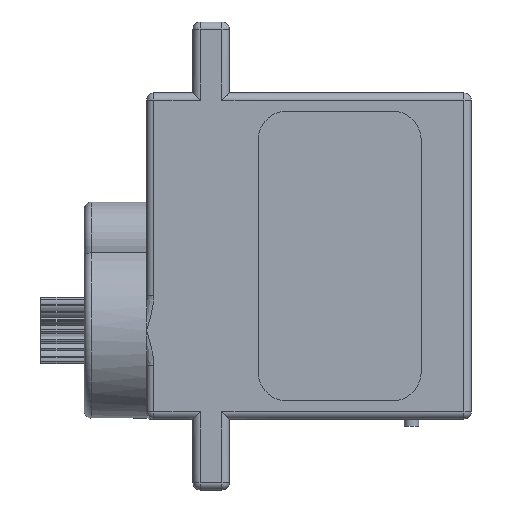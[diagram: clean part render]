
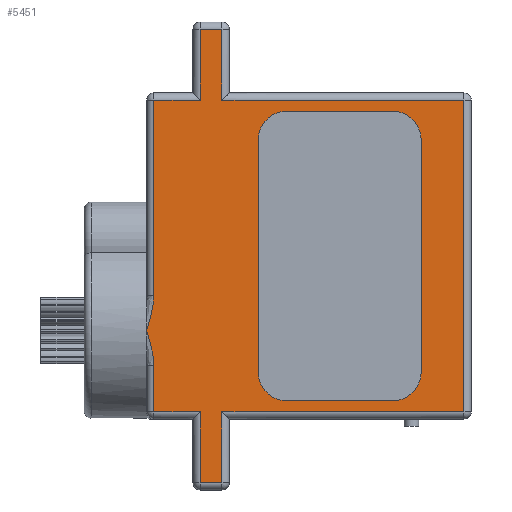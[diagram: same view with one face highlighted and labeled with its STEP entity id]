
A CAD part, left-side view. The second image highlights one B-rep face of the part: STEP entity #5451.
In plain terms, the highlighted planar face has unit normal (-1, 0, 0).
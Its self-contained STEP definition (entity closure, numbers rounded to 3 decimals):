
#135 = ORIENTED_EDGE ( 'NONE', *, *, #8714, .T. ) ;
#139 = CARTESIAN_POINT ( 'NONE',  ( -6.05, 7.5, 11.25 ) ) ;
#184 = DIRECTION ( 'NONE',  ( 0., 0., 1. ) ) ;
#282 = DIRECTION ( 'NONE',  ( 0., 0., -1. ) ) ;
#319 = ORIENTED_EDGE ( 'NONE', *, *, #1917, .T. ) ;
#403 = LINE ( 'NONE', #3398, #2750 ) ;
#616 = LINE ( 'NONE', #3626, #1099 ) ;
#634 = VERTEX_POINT ( 'NONE', #9740 ) ;
#639 = CARTESIAN_POINT ( 'NONE',  ( -6.05, -10.7, 0. ) ) ;
#673 = DIRECTION ( 'NONE',  ( 0., 0., 1. ) ) ;
#824 = VERTEX_POINT ( 'NONE', #9260 ) ;
#855 = CARTESIAN_POINT ( 'NONE',  ( -6.05, 5.5, -15.65 ) ) ;
#1049 = VECTOR ( 'NONE', #184, 1000. ) ;
#1099 = VECTOR ( 'NONE', #6641, 1000. ) ;
#1122 = ORIENTED_EDGE ( 'NONE', *, *, #6464, .T. ) ;
#1266 = CARTESIAN_POINT ( 'NONE',  ( -6.05, 6., -11.25 ) ) ;
#1303 = VECTOR ( 'NONE', #7488, 1000. ) ;
#1345 = ORIENTED_EDGE ( 'NONE', *, *, #8853, .T. ) ;
#1385 = CARTESIAN_POINT ( 'NONE',  ( -6.05, 11.2, -5.15 ) ) ;
#1398 = CARTESIAN_POINT ( 'NONE',  ( -6.05, 10.72, -7.147 ) ) ;
#1467 = CARTESIAN_POINT ( 'NONE',  ( -6.05, 11.2, -5.15 ) ) ;
#1497 = LINE ( 'NONE', #5238, #7569 ) ;
#1617 = VERTEX_POINT ( 'NONE', #1385 ) ;
#1882 = EDGE_CURVE ( 'NONE', #8248, #3300, #5270, .T. ) ;
#1917 = EDGE_CURVE ( 'NONE', #5707, #8248, #8990, .T. ) ;
#1923 = CARTESIAN_POINT ( 'NONE',  ( -6.05, 10.7, -2.742 ) ) ;
#1940 = CARTESIAN_POINT ( 'NONE',  ( -6.05, 7.5, -15.65 ) ) ;
#1943 = ORIENTED_EDGE ( 'NONE', *, *, #2413, .T. ) ;
#2131 = VECTOR ( 'NONE', #6528, 1000. ) ;
#2146 = CARTESIAN_POINT ( 'NONE',  ( -6.05, 10.7, -7.558 ) ) ;
#2357 = B_SPLINE_CURVE_WITH_KNOTS ( 'NONE', 3,
 ( #5976, #5877, #6790, #8873, #6743, #1398, #7386, #2146 ),
 .UNSPECIFIED., .F., .F.,
 ( 4, 2, 2, 4 ),
 ( 0., 0.001, 0.002, 0.002 ),
 .UNSPECIFIED. ) ;
#2379 = CARTESIAN_POINT ( 'NONE',  ( -6.05, 10.7, -7.558 ) ) ;
#2413 = EDGE_CURVE ( 'NONE', #5222, #824, #4197, .T. ) ;
#2423 = VERTEX_POINT ( 'NONE', #8065 ) ;
#2557 = LINE ( 'NONE', #5565, #1049 ) ;
#2750 = VECTOR ( 'NONE', #3203, 1000. ) ;
#2835 = LINE ( 'NONE', #1266, #8021 ) ;
#2880 = VERTEX_POINT ( 'NONE', #8551 ) ;
#2893 = ORIENTED_EDGE ( 'NONE', *, *, #6521, .T. ) ;
#2933 = CARTESIAN_POINT ( 'NONE',  ( -6.05, 10.72, -3.153 ) ) ;
#3122 = VERTEX_POINT ( 'NONE', #8828 ) ;
#3203 = DIRECTION ( 'NONE',  ( 0., 1., 0. ) ) ;
#3300 = VERTEX_POINT ( 'NONE', #8088 ) ;
#3369 = VECTOR ( 'NONE', #3497, 1000. ) ;
#3398 = CARTESIAN_POINT ( 'NONE',  ( -6.05, 0., 10.75 ) ) ;
#3458 = VECTOR ( 'NONE', #4555, 1000. ) ;
#3466 = VERTEX_POINT ( 'NONE', #1923 ) ;
#3497 = DIRECTION ( 'NONE',  ( 0., 0., -1. ) ) ;
#3626 = CARTESIAN_POINT ( 'NONE',  ( -6.05, 7.5, -16.15 ) ) ;
#4008 = ORIENTED_EDGE ( 'NONE', *, *, #9153, .T. ) ;
#4128 = CARTESIAN_POINT ( 'NONE',  ( -6.05, 0., -10.75 ) ) ;
#4197 = LINE ( 'NONE', #5085, #3369 ) ;
#4243 = DIRECTION ( 'NONE',  ( 0., 0., 1. ) ) ;
#4407 = LINE ( 'NONE', #7434, #1303 ) ;
#4549 = CARTESIAN_POINT ( 'NONE',  ( -6.05, 6., 15.65 ) ) ;
#4555 = DIRECTION ( 'NONE',  ( 0., -1., 0. ) ) ;
#4660 = EDGE_CURVE ( 'NONE', #6994, #5707, #2557, .T. ) ;
#4761 = VECTOR ( 'NONE', #6810, 1000. ) ;
#4767 = DIRECTION ( 'NONE',  ( 1., 0., 0. ) ) ;
#4800 = AXIS2_PLACEMENT_3D ( 'NONE', #9279, #4767, #282 ) ;
#4830 = LINE ( 'NONE', #4128, #8957 ) ;
#4989 = EDGE_LOOP ( 'NONE', ( #135, #7649, #9259, #4008, #7351, #2893, #8841, #6507, #319, #7075, #7447, #8452, #1345, #1122, #1943 ) ) ;
#5070 = CARTESIAN_POINT ( 'NONE',  ( -6.05, 10.7, -2.742 ) ) ;
#5085 = CARTESIAN_POINT ( 'NONE',  ( -6.05, 10.7, 0. ) ) ;
#5157 = EDGE_CURVE ( 'NONE', #3122, #3466, #1497, .T. ) ;
#5217 = CARTESIAN_POINT ( 'NONE',  ( -6.05, 10.78, -3.559 ) ) ;
#5222 = VERTEX_POINT ( 'NONE', #2379 ) ;
#5238 = CARTESIAN_POINT ( 'NONE',  ( -6.05, 10.7, 0. ) ) ;
#5270 = LINE ( 'NONE', #139, #9136 ) ;
#5314 = DIRECTION ( 'NONE',  ( 0., 0., -1. ) ) ;
#5451 = ADVANCED_FACE ( 'NONE', ( #7841 ), #9237, .F. ) ;
#5510 = VERTEX_POINT ( 'NONE', #1940 ) ;
#5565 = CARTESIAN_POINT ( 'NONE',  ( -6.05, 6., 16.15 ) ) ;
#5574 = EDGE_CURVE ( 'NONE', #8040, #2880, #7934, .T. ) ;
#5707 = VERTEX_POINT ( 'NONE', #4549 ) ;
#5877 = CARTESIAN_POINT ( 'NONE',  ( -6.05, 11.082, -5.544 ) ) ;
#5976 = CARTESIAN_POINT ( 'NONE',  ( -6.05, 11.2, -5.15 ) ) ;
#6192 = B_SPLINE_CURVE_WITH_KNOTS ( 'NONE', 3,
 ( #5070, #6702, #2933, #5217, #8194, #8047, #9497, #1467 ),
 .UNSPECIFIED., .F., .F.,
 ( 4, 2, 2, 4 ),
 ( 0., 0.001, 0.001, 0.002 ),
 .UNSPECIFIED. ) ;
#6312 = CARTESIAN_POINT ( 'NONE',  ( -6.05, 7.5, 15.65 ) ) ;
#6344 = EDGE_CURVE ( 'NONE', #3300, #3122, #4407, .T. ) ;
#6464 = EDGE_CURVE ( 'NONE', #1617, #5222, #2357, .T. ) ;
#6507 = ORIENTED_EDGE ( 'NONE', *, *, #4660, .T. ) ;
#6521 = EDGE_CURVE ( 'NONE', #2880, #8728, #9460, .T. ) ;
#6528 = DIRECTION ( 'NONE',  ( 0., -1., 0. ) ) ;
#6641 = DIRECTION ( 'NONE',  ( 0., 0., -1. ) ) ;
#6702 = CARTESIAN_POINT ( 'NONE',  ( -6.05, 10.7, -2.949 ) ) ;
#6743 = CARTESIAN_POINT ( 'NONE',  ( -6.05, 10.78, -6.741 ) ) ;
#6790 = CARTESIAN_POINT ( 'NONE',  ( -6.05, 10.963, -5.94 ) ) ;
#6810 = DIRECTION ( 'NONE',  ( 0., 1., 0. ) ) ;
#6950 = CARTESIAN_POINT ( 'NONE',  ( -6.05, 8., 15.65 ) ) ;
#6994 = VERTEX_POINT ( 'NONE', #9707 ) ;
#7075 = ORIENTED_EDGE ( 'NONE', *, *, #1882, .T. ) ;
#7112 = VECTOR ( 'NONE', #4243, 1000. ) ;
#7204 = CARTESIAN_POINT ( 'NONE',  ( -6.05, 0., -10.75 ) ) ;
#7236 = EDGE_CURVE ( 'NONE', #5510, #634, #8279, .T. ) ;
#7351 = ORIENTED_EDGE ( 'NONE', *, *, #5574, .T. ) ;
#7386 = CARTESIAN_POINT ( 'NONE',  ( -6.05, 10.7, -7.351 ) ) ;
#7433 = CARTESIAN_POINT ( 'NONE',  ( -6.05, 6., -10.75 ) ) ;
#7434 = CARTESIAN_POINT ( 'NONE',  ( -6.05, 0., 10.75 ) ) ;
#7447 = ORIENTED_EDGE ( 'NONE', *, *, #6344, .T. ) ;
#7488 = DIRECTION ( 'NONE',  ( 0., 1., 0. ) ) ;
#7569 = VECTOR ( 'NONE', #8269, 1000. ) ;
#7649 = ORIENTED_EDGE ( 'NONE', *, *, #9006, .T. ) ;
#7802 = DIRECTION ( 'NONE',  ( 0., -1., 0. ) ) ;
#7841 = FACE_OUTER_BOUND ( 'NONE', #4989, .T. ) ;
#7934 = LINE ( 'NONE', #7204, #2131 ) ;
#8021 = VECTOR ( 'NONE', #673, 1000. ) ;
#8040 = VERTEX_POINT ( 'NONE', #7433 ) ;
#8047 = CARTESIAN_POINT ( 'NONE',  ( -6.05, 10.963, -4.36 ) ) ;
#8065 = CARTESIAN_POINT ( 'NONE',  ( -6.05, 7.5, -10.75 ) ) ;
#8088 = CARTESIAN_POINT ( 'NONE',  ( -6.05, 7.5, 10.75 ) ) ;
#8194 = CARTESIAN_POINT ( 'NONE',  ( -6.05, 10.821, -3.76 ) ) ;
#8248 = VERTEX_POINT ( 'NONE', #6312 ) ;
#8269 = DIRECTION ( 'NONE',  ( 0., 0., -1. ) ) ;
#8279 = LINE ( 'NONE', #855, #3458 ) ;
#8280 = EDGE_CURVE ( 'NONE', #8728, #6994, #403, .T. ) ;
#8452 = ORIENTED_EDGE ( 'NONE', *, *, #5157, .T. ) ;
#8551 = CARTESIAN_POINT ( 'NONE',  ( -6.05, -10.7, -10.75 ) ) ;
#8642 = CARTESIAN_POINT ( 'NONE',  ( -6.05, -10.7, 10.75 ) ) ;
#8714 = EDGE_CURVE ( 'NONE', #824, #2423, #4830, .T. ) ;
#8728 = VERTEX_POINT ( 'NONE', #8642 ) ;
#8828 = CARTESIAN_POINT ( 'NONE',  ( -6.05, 10.7, 10.75 ) ) ;
#8841 = ORIENTED_EDGE ( 'NONE', *, *, #8280, .T. ) ;
#8853 = EDGE_CURVE ( 'NONE', #3466, #1617, #6192, .T. ) ;
#8873 = CARTESIAN_POINT ( 'NONE',  ( -6.05, 10.821, -6.54 ) ) ;
#8957 = VECTOR ( 'NONE', #7802, 1000. ) ;
#8990 = LINE ( 'NONE', #6950, #4761 ) ;
#9006 = EDGE_CURVE ( 'NONE', #2423, #5510, #616, .T. ) ;
#9136 = VECTOR ( 'NONE', #5314, 1000. ) ;
#9153 = EDGE_CURVE ( 'NONE', #634, #8040, #2835, .T. ) ;
#9237 = PLANE ( 'NONE',  #4800 ) ;
#9259 = ORIENTED_EDGE ( 'NONE', *, *, #7236, .T. ) ;
#9260 = CARTESIAN_POINT ( 'NONE',  ( -6.05, 10.7, -10.75 ) ) ;
#9279 = CARTESIAN_POINT ( 'NONE',  ( -6.05, 0., 0. ) ) ;
#9460 = LINE ( 'NONE', #639, #7112 ) ;
#9497 = CARTESIAN_POINT ( 'NONE',  ( -6.05, 11.082, -4.757 ) ) ;
#9707 = CARTESIAN_POINT ( 'NONE',  ( -6.05, 6., 10.75 ) ) ;
#9740 = CARTESIAN_POINT ( 'NONE',  ( -6.05, 6., -15.65 ) ) ;
